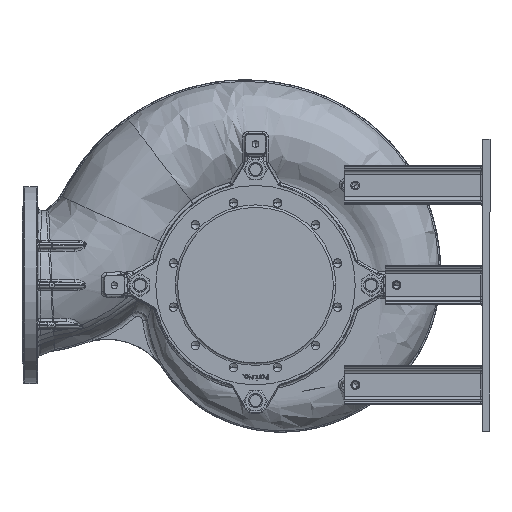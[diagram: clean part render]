
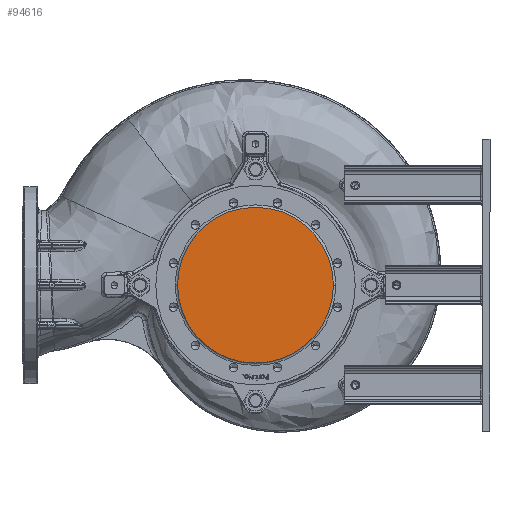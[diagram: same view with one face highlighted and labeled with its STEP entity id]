
A CAD part, left-side view. The second image highlights one B-rep face of the part: STEP entity #94616.
In plain terms, the highlighted planar face has unit normal (-1, 0, 0).
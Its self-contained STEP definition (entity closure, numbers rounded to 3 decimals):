
#10214 = AXIS2_PLACEMENT_3D ( 'NONE', #119068, #33146, #133421 ) ;
#15537 = AXIS2_PLACEMENT_3D ( 'NONE', #169936, #84508, #184222 ) ;
#20088 = DIRECTION ( 'NONE',  ( -1., 0., 0. ) ) ;
#26513 = ORIENTED_EDGE ( 'NONE', *, *, #141745, .T. ) ;
#33146 = DIRECTION ( 'NONE',  ( -1., 0., 0. ) ) ;
#60531 = ORIENTED_EDGE ( 'NONE', *, *, #74729, .T. ) ;
#69704 = CARTESIAN_POINT ( 'NONE',  ( -575.5, 160.12, 0. ) ) ;
#74729 = EDGE_CURVE ( 'NONE', #115047, #112208, #101417, .T. ) ;
#84508 = DIRECTION ( 'NONE',  ( -1., 0., 0. ) ) ;
#94616 = ADVANCED_FACE ( 'NONE', ( #152056 ), #154960, .T. ) ;
#101417 = CIRCLE ( 'NONE', #121779, 160.12 ) ;
#106246 = CARTESIAN_POINT ( 'NONE',  ( -575.5, 0., 0. ) ) ;
#107151 = CIRCLE ( 'NONE', #10214, 160.12 ) ;
#112208 = VERTEX_POINT ( 'NONE', #174021 ) ;
#113824 = EDGE_LOOP ( 'NONE', ( #60531, #26513 ) ) ;
#115047 = VERTEX_POINT ( 'NONE', #69704 ) ;
#119068 = CARTESIAN_POINT ( 'NONE',  ( -575.5, 0., 0. ) ) ;
#120515 = DIRECTION ( 'NONE',  ( 0., -1., 0. ) ) ;
#121779 = AXIS2_PLACEMENT_3D ( 'NONE', #106246, #20088, #120515 ) ;
#133421 = DIRECTION ( 'NONE',  ( 0., -1., 0. ) ) ;
#141745 = EDGE_CURVE ( 'NONE', #112208, #115047, #107151, .T. ) ;
#152056 = FACE_OUTER_BOUND ( 'NONE', #113824, .T. ) ;
#154960 = PLANE ( 'NONE',  #15537 ) ;
#169936 = CARTESIAN_POINT ( 'NONE',  ( -575.5, 0., 0. ) ) ;
#174021 = CARTESIAN_POINT ( 'NONE',  ( -575.5, -160.12, 0. ) ) ;
#184222 = DIRECTION ( 'NONE',  ( 0., 1., 0. ) ) ;
